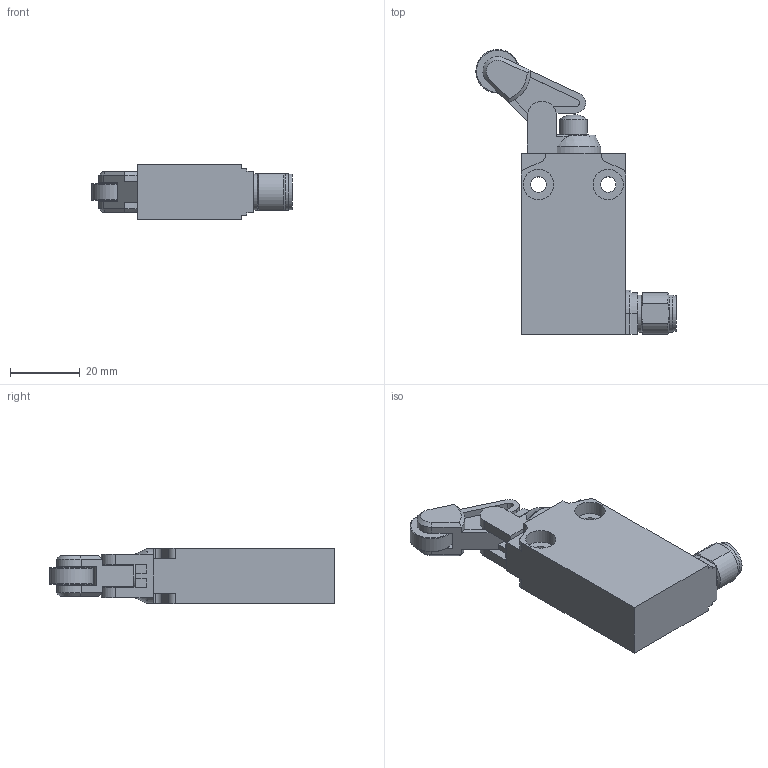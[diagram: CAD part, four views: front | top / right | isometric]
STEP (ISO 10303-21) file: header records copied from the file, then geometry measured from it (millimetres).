
FILE_DESCRIPTION(/* description */ (''),/* implementation_level */ '2;1');
FILE_NAME(/* name */ 'C:\Users\servizio.tecnico\Desktop\CADENAS\3D\EP1_STP\STP_EP1_G32M.stp',/* time_stamp */ '2017-09-04T11:38:57+02:00',/* author */ ('servizio.tecnico'),/* organization */ (''),/* preprocessor_version */ 'ST-DEVELOPER v16.1',/* originating_system */ 'Autodesk Inventor 2016',/* authorisation */ '');
FILE_SCHEMA (('AUTOMOTIVE_DESIGN { 1 0 10303 214 3 1 1 }'));
Length unit declared in the file: millimetre
Products named in the file (3): Product; EP1G32-M; BASE ASSI 
Assembly tree (2 placements, depth 3):
  BASE ASSI 
    EP1G32-M
      Product
Bounding box: 57.48 x 81.73 x 16 mm (x, y, z)
Volume: 28983.6 mm3; surface area: 11110.3 mm2
Topology: 5 solids, 5 shells, 155 faces, 388 edges, 253 vertices
Faces by surface type: plane 90, cylinder 50, cone 9, torus 5, sphere 1
Full cylindrical faces by diameter (mm): 4.4 x2, 7 x1, 7.8 x2, 7.95 x1, 8.05 x1, 8.7 x4, 10.3 x1, 10.6 x2, 12.5 x1
Entity records: 4746 total; most frequent: CARTESIAN_POINT 843, DIRECTION 792, ORIENTED_EDGE 728, EDGE_CURVE 364, AXIS2_PLACEMENT_3D 284, VERTEX_POINT 248, LINE 224, VECTOR 224
